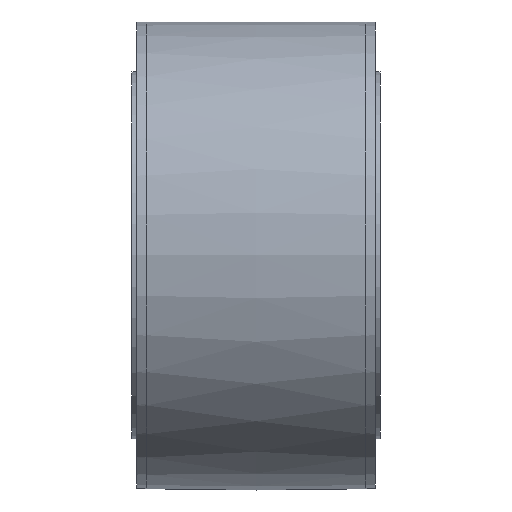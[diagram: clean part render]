
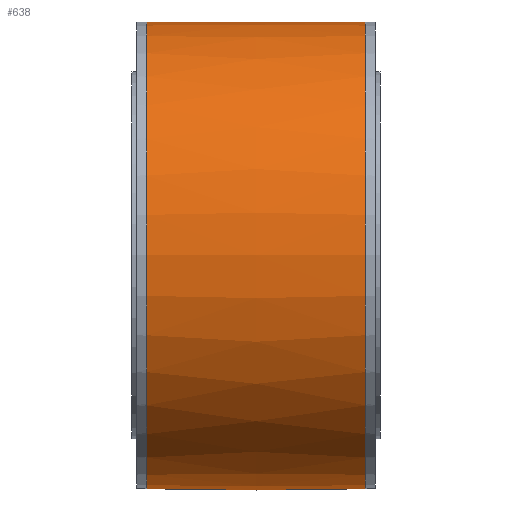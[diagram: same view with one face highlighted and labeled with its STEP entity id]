
A CAD part, front view. The second image highlights one B-rep face of the part: STEP entity #638.
In plain terms, the highlighted free-form (B-spline) face has degree [2, 2] with [3, 9] control points.
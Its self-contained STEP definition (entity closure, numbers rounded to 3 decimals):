
#198=(
BOUNDED_CURVE()
B_SPLINE_CURVE(2,(#1277,#1278,#1279),.UNSPECIFIED.,.F.,.F.)
B_SPLINE_CURVE_WITH_KNOTS((3,3),(-0.022,0.022),
 .UNSPECIFIED.)
CURVE()
GEOMETRIC_REPRESENTATION_ITEM()
RATIONAL_B_SPLINE_CURVE((1.,1.,1.))
REPRESENTATION_ITEM('')
);
#200=(
BOUNDED_SURFACE()
B_SPLINE_SURFACE(2,2,((#1246,#1247,#1248,#1249,#1250,#1251,#1252,#1253,
#1254),(#1255,#1256,#1257,#1258,#1259,#1260,#1261,#1262,#1263),(#1264,#1265,
#1266,#1267,#1268,#1269,#1270,#1271,#1272)),.UNSPECIFIED.,.F.,.T.,.F.)
B_SPLINE_SURFACE_WITH_KNOTS((3,3),(3,2,2,2,3),(-0.022,0.022),
(-3.142,-1.571,0.,1.571,3.142),
 .UNSPECIFIED.)
GEOMETRIC_REPRESENTATION_ITEM()
RATIONAL_B_SPLINE_SURFACE(((1.,0.707,1.,0.707,1.,
0.707,1.,0.707,1.),(1.,0.707,
1.,0.707,1.,0.707,
1.,0.707,1.),(1.,0.707,
1.,0.707,1.,0.707,1.,0.707,1.)))
REPRESENTATION_ITEM('')
SURFACE()
);
#305=FACE_OUTER_BOUND('',#371,.T.);
#371=EDGE_LOOP('',(#581,#582,#583,#584,#585,#586));
#419=CIRCLE('',#800,23.523);
#420=CIRCLE('',#801,23.523);
#421=CIRCLE('',#802,23.523);
#422=CIRCLE('',#803,23.523);
#461=VERTEX_POINT('',#1242);
#462=VERTEX_POINT('',#1243);
#463=VERTEX_POINT('',#1273);
#464=VERTEX_POINT('',#1274);
#504=EDGE_CURVE('',#461,#462,#419,.T.);
#505=EDGE_CURVE('',#462,#461,#420,.T.);
#506=EDGE_CURVE('',#463,#464,#421,.T.);
#507=EDGE_CURVE('',#464,#463,#422,.T.);
#508=EDGE_CURVE('',#464,#462,#198,.T.);
#581=ORIENTED_EDGE('',*,*,#506,.F.);
#582=ORIENTED_EDGE('',*,*,#507,.F.);
#583=ORIENTED_EDGE('',*,*,#508,.T.);
#584=ORIENTED_EDGE('',*,*,#504,.F.);
#585=ORIENTED_EDGE('',*,*,#505,.F.);
#586=ORIENTED_EDGE('',*,*,#508,.F.);
#638=ADVANCED_FACE('',(#305),#200,.F.);
#800=AXIS2_PLACEMENT_3D('',#1244,#992,#993);
#801=AXIS2_PLACEMENT_3D('',#1245,#994,#995);
#802=AXIS2_PLACEMENT_3D('',#1275,#996,#997);
#803=AXIS2_PLACEMENT_3D('',#1276,#998,#999);
#992=DIRECTION('center_axis',(-1.,0.,0.));
#993=DIRECTION('ref_axis',(0.,-1.,0.));
#994=DIRECTION('center_axis',(-1.,0.,0.));
#995=DIRECTION('ref_axis',(0.,-1.,0.));
#996=DIRECTION('center_axis',(1.,0.,0.));
#997=DIRECTION('ref_axis',(0.,-1.,0.));
#998=DIRECTION('center_axis',(1.,0.,0.));
#999=DIRECTION('ref_axis',(0.,-1.,0.));
#1242=CARTESIAN_POINT('',(-11.022,23.523,0.));
#1243=CARTESIAN_POINT('',(-11.022,0.,23.523));
#1244=CARTESIAN_POINT('Origin',(-11.022,0.,
0.));
#1245=CARTESIAN_POINT('Origin',(-11.022,0.,
0.));
#1246=CARTESIAN_POINT('Ctrl Pts',(-11.022,0.,
23.523));
#1247=CARTESIAN_POINT('Ctrl Pts',(-11.022,-23.523,23.523));
#1248=CARTESIAN_POINT('Ctrl Pts',(-11.022,-23.523,0.));
#1249=CARTESIAN_POINT('Ctrl Pts',(-11.022,-23.523,-23.523));
#1250=CARTESIAN_POINT('Ctrl Pts',(-11.022,0.,
-23.523));
#1251=CARTESIAN_POINT('Ctrl Pts',(-11.022,23.523,-23.523));
#1252=CARTESIAN_POINT('Ctrl Pts',(-11.022,23.523,0.));
#1253=CARTESIAN_POINT('Ctrl Pts',(-11.022,23.523,23.523));
#1254=CARTESIAN_POINT('Ctrl Pts',(-11.022,0.,
23.523));
#1255=CARTESIAN_POINT('Ctrl Pts',(0.,0.,
23.766));
#1256=CARTESIAN_POINT('Ctrl Pts',(0.,-23.766,
23.766));
#1257=CARTESIAN_POINT('Ctrl Pts',(0.,-23.766,
0.));
#1258=CARTESIAN_POINT('Ctrl Pts',(0.,-23.766,
-23.766));
#1259=CARTESIAN_POINT('Ctrl Pts',(0.,0.,
-23.766));
#1260=CARTESIAN_POINT('Ctrl Pts',(0.,23.766,
-23.766));
#1261=CARTESIAN_POINT('Ctrl Pts',(0.,23.766,
0.));
#1262=CARTESIAN_POINT('Ctrl Pts',(0.,23.766,
23.766));
#1263=CARTESIAN_POINT('Ctrl Pts',(0.,0.,
23.766));
#1264=CARTESIAN_POINT('Ctrl Pts',(11.022,0.,
23.523));
#1265=CARTESIAN_POINT('Ctrl Pts',(11.022,-23.523,23.523));
#1266=CARTESIAN_POINT('Ctrl Pts',(11.022,-23.523,0.));
#1267=CARTESIAN_POINT('Ctrl Pts',(11.022,-23.523,-23.523));
#1268=CARTESIAN_POINT('Ctrl Pts',(11.022,0.,
-23.523));
#1269=CARTESIAN_POINT('Ctrl Pts',(11.022,23.523,-23.523));
#1270=CARTESIAN_POINT('Ctrl Pts',(11.022,23.523,0.));
#1271=CARTESIAN_POINT('Ctrl Pts',(11.022,23.523,23.523));
#1272=CARTESIAN_POINT('Ctrl Pts',(11.022,0.,
23.523));
#1273=CARTESIAN_POINT('',(11.022,23.523,0.));
#1274=CARTESIAN_POINT('',(11.022,0.,23.523));
#1275=CARTESIAN_POINT('Origin',(11.022,0.,0.));
#1276=CARTESIAN_POINT('Origin',(11.022,0.,0.));
#1277=CARTESIAN_POINT('Ctrl Pts',(11.022,0.,
23.523));
#1278=CARTESIAN_POINT('Ctrl Pts',(0.,0.,
23.766));
#1279=CARTESIAN_POINT('Ctrl Pts',(-11.022,0.,
23.523));
